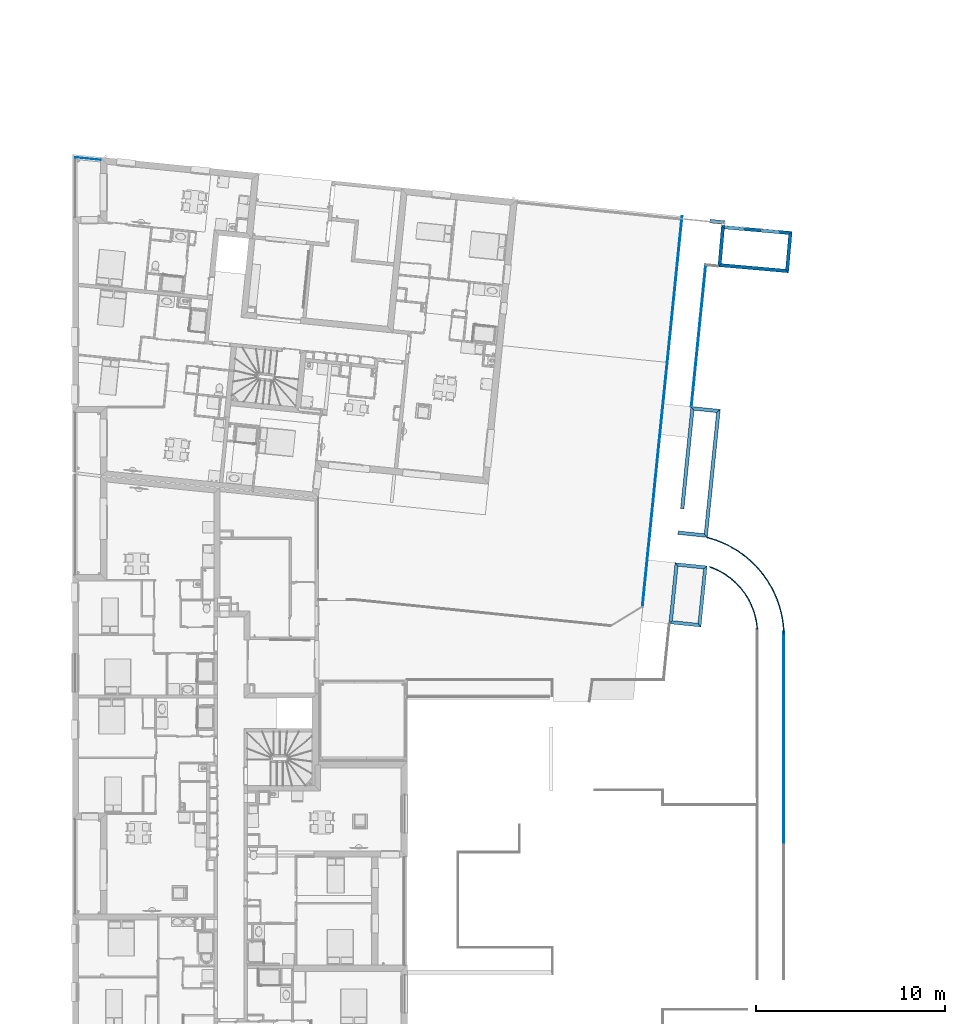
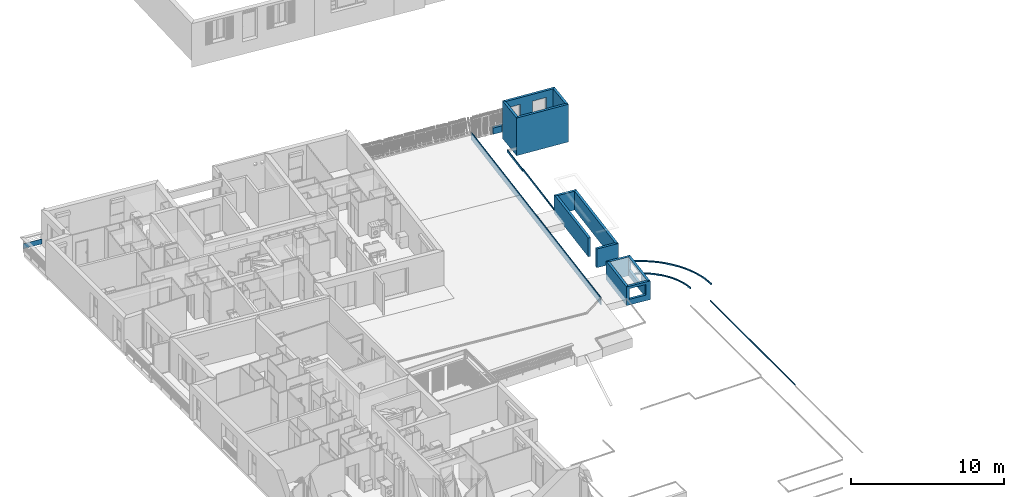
# One storey, part 82 of 171: 20 walls, 4 openings.
"""IFC2X3 building model written with IfcOpenShell, lengths in millimetres."""

from ifc_helpers import new_model, entity, si_unit, converted_unit, derived_unit, money_unit, point, direction, frame, frame_2d, origin_with_axes, origin_2d_with_axis, place, context, subcontext, project, spatial, polyline, circle_curve, parameter, trimmed, segment, composite_curve, rectangle, outline, extrude, material, layer, layer_set, layer_usage, type_object, element, save


model = new_model("IFC2X3")

# Units and contexts
model_context = context("Model", 3, precision=0.01, world=origin_with_axes(), true_north=direction((0.0, 1.0)))
body_context = subcontext(model_context, "Body", "Model", "MODEL_VIEW")
ifc_project = project(units=[si_unit("LENGTHUNIT", "METRE", prefix="MILLI"), si_unit("AREAUNIT", "SQUARE_METRE"), si_unit("VOLUMEUNIT", "CUBIC_METRE"), converted_unit("PLANEANGLEUNIT", "DEGREE", entity("IfcPlaneAngleMeasure", 0.0174532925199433), si_unit("PLANEANGLEUNIT", "RADIAN"), dimensions=[0, 0, 0, 0, 0, 0, 0]), money_unit("USD"), converted_unit("TIMEUNIT", "Year", entity("IfcTimeMeasure", 31557600.0), si_unit("TIMEUNIT", "SECOND"), dimensions=[0, 0, 1, 0, 0, 0, 0]), si_unit("MASSUNIT", "GRAM", prefix="KILO"), si_unit("THERMODYNAMICTEMPERATUREUNIT", "DEGREE_CELSIUS"), si_unit("LUMINOUSINTENSITYUNIT", "LUMEN"), si_unit("ENERGYUNIT", "JOULE", prefix="MEGA"), derived_unit("THERMALCONDUCTANCEUNIT", [(si_unit("POWERUNIT", "WATT"), 1), (si_unit("LENGTHUNIT", "METRE"), -1), (si_unit("THERMODYNAMICTEMPERATUREUNIT", "KELVIN"), -1)]), derived_unit("SPECIFICHEATCAPACITYUNIT", [(si_unit("ENERGYUNIT", "JOULE"), 1), (si_unit("MASSUNIT", "GRAM", prefix="KILO"), -1), (si_unit("THERMODYNAMICTEMPERATUREUNIT", "KELVIN"), -1)]), derived_unit("MASSDENSITYUNIT", [(si_unit("MASSUNIT", "GRAM", prefix="KILO"), 1), (si_unit("VOLUMEUNIT", "CUBIC_METRE"), -1)])], contexts=[model_context])

# Site, building, storey
site_placement = place(None, origin_with_axes())
site = spatial("IfcSite", under=ifc_project, at=site_placement, Name="Site", CompositionType="ELEMENT")
building_placement = place(site_placement, origin_with_axes())
building = spatial("IfcBuilding", under=site, at=building_placement, Name="Bâtiment", CompositionType="ELEMENT")
storey_placement = place(building_placement, frame((0.0, 0.0, 3000.0), z_axis=(0.0, 0.0, 1.0), x_axis=(1.0, 0.0, 0.0)))
storey = spatial("IfcBuildingStorey", under=building, at=storey_placement, Name="rdc", CompositionType="ELEMENT", Elevation=3000.0)

# Walls
ifc_material_1 = material(Name="Hachure solide 268963992")
ifc_layer_1 = layer(ifc_material_1, 50.0, ventilated="UNKNOWN")
ifc_layer_set_1 = layer_set([ifc_layer_1], Name="Cloison 50")
ifc_layer_usage_1 = layer_usage(ifc_layer_set_1, "AXIS2", "NEGATIVE", 50.0)
wall_type_1 = type_object("IfcWallType", Name="Cloison 50 50", PredefinedType="NOTDEFINED")
wall_1_placement = place(storey_placement, frame((2246822.735683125, -627769.7764037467, -500.0), z_axis=(0.0, 0.0, 1.0), x_axis=(0.1011032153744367, 0.9948759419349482, 0.0)))
element("IfcWallStandardCase", 1, at=wall_1_placement, inside=storey, type_object=wall_type_1, material=ifc_layer_usage_1, Name="Mur-152", context=body_context, shape_type="SweptSolid", body=[
    extrude(outline(polyline([(0.0, 0.0), (20751.98327248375, 0.0), (20751.98327248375, 50.00000000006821), (24.68437449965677, 50.00000000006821), (0.0, 0.0)])), origin_with_axes(), (0.0, 0.0, 1.0), 600.0000000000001),
])
ifc_layer_usage_2 = layer_usage(ifc_layer_set_1, "AXIS2", "NEGATIVE", 50.0)
wall_2_placement = place(storey_placement, frame((2250127.298593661, -609664.368330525, -399.9999999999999), z_axis=(0.0, 0.0, 1.0), x_axis=(-0.101103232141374, -0.9948759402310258, 0.0)))
element("IfcWallStandardCase", 2, at=wall_2_placement, inside=storey, type_object=wall_type_1, material=ifc_layer_usage_2, Name="Mur-154", context=body_context, shape_type="SweptSolid", body=[
    extrude(outline(polyline([(0.0, 0.0), (2442.826510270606, -1.13686837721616e-10), (2442.823538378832, 49.99999999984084), (49.99999927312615, 49.99999999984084), (0.0, 0.0)])), origin_with_axes(), (0.0, 0.0, 1.0), 205.7833593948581),
])
ifc_layer_usage_3 = layer_usage(ifc_layer_set_1, "AXIS2", "POSITIVE", -50.0)
wall_3_placement = place(storey_placement, frame((2254256.657583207, -629233.0459382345, -599.9999999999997), z_axis=(0.0, 0.0, 1.0), x_axis=(-0.01920282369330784, 0.9998156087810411, 0.0)))
element("IfcWallStandardCase", 3, at=wall_3_placement, inside=storey, type_object=wall_type_1, material=ifc_layer_usage_3, Name="Mur-158", context=body_context, shape_type="SweptSolid", body=[
    extrude(outline(composite_curve([segment(trimmed(circle_curve(frame_2d((-1.012523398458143e-10, 5365.386332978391), x_axis=(0.0, -1.0)), 5415.386332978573), [point((0.0, -50.0000000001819)), parameter(0.0)], [point((5222.251589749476, 3932.034502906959)), parameter(74.65197986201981)], True, "CARTESIAN"), True, "CONTINUOUS"), segment(polyline([(5222.251589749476, 3932.034502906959), (5174.03479348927, 3945.268571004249)]), True, "CONTINUOUS"), segment(trimmed(circle_curve(frame_2d((0.0, 5365.386332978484), x_axis=(0.0, -1.0)), 5365.386332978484), [point((5174.03479348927, 3945.268571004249)), parameter(74.65197986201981)], [point((0.0, 0.0)), parameter(0.0)], False, "CARTESIAN"), True, "CONTINUOUS"), segment(polyline([(0.0, 0.0), (0.0, -50.0000000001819)]), True, "CONTINUOUS")], self_intersect=False)), origin_with_axes(), (0.0, 0.0, 1.0), 100.0),
])
ifc_layer_usage_4 = layer_usage(ifc_layer_set_1, "AXIS2", "NEGATIVE", 50.0)
wall_4_placement = place(storey_placement, frame((2249880.320937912, -612094.6776517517, -259.9295613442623), z_axis=(0.0, 0.0, 1.0), x_axis=(-0.1009849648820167, -0.9948879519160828, 0.0)))
element("IfcWallStandardCase", 4, at=wall_4_placement, inside=storey, type_object=wall_type_1, material=ifc_layer_usage_4, Name="Mur-157", context=body_context, shape_type="SweptSolid", body=[
    extrude(outline(polyline([(0.0, 0.0), (5112.437162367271, -1.13686837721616e-10), (5112.437162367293, 49.99999999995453), (0.002971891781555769, 49.99999999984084), (0.0, 0.0)])), origin_with_axes(), (0.0, 0.0, 1.0), 100.0),
])
ifc_layer_usage_5 = layer_usage(ifc_layer_set_1, "AXIS2", "NEGATIVE", 50.0)
wall_5_placement = place(storey_placement, frame((2254256.657583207, -629094.8486169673, -2000.0), z_axis=(0.0, 0.0, 1.0), x_axis=(0.0, -1.0, 0.0)))
element("IfcWallStandardCase", 5, at=wall_5_placement, inside=storey, type_object=wall_type_1, material=ifc_layer_usage_5, Name="Mur-159", context=body_context, shape_type="SweptSolid", body=[
    extrude(outline(polyline([(0.0, 0.0), (11169.95491143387, 0.0), (11169.95670882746, 49.99999999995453), (0.0, 49.99999999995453), (0.0, 0.0)])), origin_with_axes(), (0.0, 0.0, 1.0), 100.0),
])
ifc_layer_usage_6 = layer_usage(ifc_layer_set_1, "AXIS2", "NEGATIVE", 0.0)
wall_6_placement = place(storey_placement, frame((2252848.153383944, -628955.3649179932, -599.9999999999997), z_axis=(0.0, 0.0, 1.0), x_axis=(-0.06788713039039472, 0.9976930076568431, 0.0)))
element("IfcWallStandardCase", 6, at=wall_6_placement, inside=storey, type_object=wall_type_1, material=ifc_layer_usage_6, Name="Mur-163", context=body_context, shape_type="SweptSolid", body=[
    extrude(outline(composite_curve([segment(trimmed(circle_curve(frame_2d((0.0, 3722.563453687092), x_axis=(0.0, -1.0)), 3772.56345368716), [point((0.0, -50.00000000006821)), parameter(0.0)], [point((3471.413403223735, 2245.565147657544)), parameter(66.95147849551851)], True, "CARTESIAN"), True, "CONTINUOUS"), segment(polyline([(3471.413403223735, 2245.565147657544), (3425.404721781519, 2265.140674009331)]), True, "CONTINUOUS"), segment(trimmed(circle_curve(frame_2d((0.0, 3722.563453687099), x_axis=(0.0, -1.0)), 3722.563453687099), [point((3425.404721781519, 2265.140674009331)), parameter(66.95147849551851)], [point((0.0, 0.0)), parameter(0.0)], False, "CARTESIAN"), True, "CONTINUOUS"), segment(polyline([(0.0, 0.0), (0.0, -50.00000000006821)]), True, "CONTINUOUS")], self_intersect=False)), origin_with_axes(), (0.0, 0.0, 1.0), 100.0),
])

# Wall, openings
ifc_material_2 = material(Name="Parpaing 314940890")
ifc_layer_2 = layer(ifc_material_2, 180.0, ventilated="UNKNOWN")
ifc_layer_set_2 = layer_set([ifc_layer_2], Name="Beton  18 0018356637")
ifc_layer_usage_7 = layer_usage(ifc_layer_set_2, "AXIS2", "POSITIVE", 0.0)
wall_type_2 = type_object("IfcWallType", Name="Beton  18 0018356637 180", PredefinedType="NOTDEFINED")
wall_7_placement = place(storey_placement, frame((2254723.103832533, -607922.215474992, -600.0000000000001), z_axis=(0.0, 0.0, 1.0), x_axis=(-0.9961532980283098, 0.08762766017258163, 0.0)))
wall_7 = element("IfcWallStandardCase", 7, at=wall_7_placement, inside=storey, type_object=wall_type_2, material=ifc_layer_usage_7, Name="Mur-142", context=body_context, shape_type="SweptSolid", body=[
    extrude(outline(polyline([(0.0, 0.0), (3762.228864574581, 0.0), (3582.228864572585, 179.9999999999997), (179.9999999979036, 179.9999999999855), (0.0, 0.0)])), origin_with_axes(), (0.0, 0.0, 1.0), 2750.0),
])
opening_1_placement = place(wall_7_placement, frame((3054.178626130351, 0.0, 200.0000000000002), z_axis=(0.0, 0.0, 1.0), x_axis=(1.0, 0.0, 0.0)))
element("IfcOpeningElement", 8, at=opening_1_placement, cuts=wall_7, Name="Por-277", context=body_context, shape_type="SweptSolid", body=[
    extrude(rectangle(XDim=1020.000001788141, YDim=2010.0, at=origin_2d_with_axis()), frame((8.940332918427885e-07, 179.9999999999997, 1005.0), z_axis=(0.0, 1.0, 0.0), x_axis=(1.0, 0.0, 0.0)), (0.0, 0.0, -1.0), 360.0),
])
opening_2_placement = place(wall_7_placement, frame((1175.34071080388, 0.0, 200.0000000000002), z_axis=(0.0, 0.0, 1.0), x_axis=(1.0, 0.0, 0.0)))
element("IfcOpeningElement", 9, at=opening_2_placement, cuts=wall_7, Name="Por-277", context=body_context, shape_type="SweptSolid", body=[
    extrude(rectangle(XDim=1020.000001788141, YDim=2010.0, at=origin_2d_with_axis()), frame((-8.940332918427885e-07, 179.9999999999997, 1005.0), z_axis=(0.0, -1.0, 0.0), x_axis=(-1.0, 0.0, 0.0)), (0.0, 0.0, 1.0), 360.0),
])

# Walls
ifc_layer_usage_8 = layer_usage(ifc_layer_set_2, "AXIS2", "NEGATIVE", 0.0)
wall_8_placement = place(storey_placement, frame((2254723.103832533, -607922.215474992, -864.8724613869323), z_axis=(0.0, 0.0, 1.0), x_axis=(-0.0876276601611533, -0.9961532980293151, 0.0)))
element("IfcWallStandardCase", 10, at=wall_8_placement, inside=storey, type_object=wall_type_2, material=ifc_layer_usage_8, Name="Mur-142", context=body_context, shape_type="SweptSolid", body=[
    extrude(outline(polyline([(179.999999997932, -180.0000000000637), (2017.153720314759, -179.99999999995), (2197.153720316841, -1.13686837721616e-10), (0.0, 0.0), (179.999999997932, -180.0000000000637)])), origin_with_axes(), (0.0, 0.0, 1.0), 3014.872461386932),
])
ifc_layer_usage_9 = layer_usage(ifc_layer_set_2, "AXIS2", "NEGATIVE", 0.0)
wall_9_placement = place(storey_placement, frame((2254530.572393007, -610110.917399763, -864.8724613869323), z_axis=(0.0, 0.0, 1.0), x_axis=(-0.9961532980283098, 0.08762766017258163, 0.0)))
element("IfcWallStandardCase", 11, at=wall_9_placement, inside=storey, type_object=wall_type_2, material=ifc_layer_usage_9, Name="Mur-142", context=body_context, shape_type="SweptSolid", body=[
    extrude(outline(polyline([(180.0000000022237, -179.9999999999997), (3582.228864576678, -180.0000000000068), (3762.228864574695, 0.0), (1.13686837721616e-10, 0.0), (180.0000000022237, -179.9999999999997)])), origin_with_axes(), (0.0, 0.0, 1.0), 3014.872461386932),
])
ifc_layer_usage_10 = layer_usage(ifc_layer_set_2, "AXIS2", "NEGATIVE", 0.0)
wall_10_placement = place(storey_placement, frame((2250782.815701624, -609781.2420873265, -864.8724613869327), z_axis=(0.0, 0.0, 1.0), x_axis=(0.0876276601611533, 0.9961532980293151, 0.0)))
element("IfcWallStandardCase", 12, at=wall_10_placement, inside=storey, type_object=wall_type_2, material=ifc_layer_usage_10, Name="Mur-142", context=body_context, shape_type="SweptSolid", body=[
    extrude(outline(polyline([(179.9999999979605, -180.0000000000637), (2017.153720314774, -179.99999999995), (2197.153720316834, 0.0), (0.0, 0.0), (179.9999999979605, -180.0000000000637)])), origin_with_axes(), (0.0, 0.0, 1.0), 3014.872461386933),
])
ifc_layer_usage_11 = layer_usage(ifc_layer_set_2, "AXIS2", "POSITIVE", 0.0)
wall_11_placement = place(storey_placement, frame((2248995.007074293, -622592.7125734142, -500.0), z_axis=(0.0, 0.0, 1.0), x_axis=(0.1011032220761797, 0.9948759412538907, 0.0)))
element("IfcWallStandardCase", 13, at=wall_11_placement, inside=storey, type_object=wall_type_2, material=ifc_layer_usage_11, Name="Mur-133", context=body_context, shape_type="SweptSolid", body=[
    extrude(outline(polyline([(0.0, 0.0), (5241.313331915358, 0.0), (5421.31333191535, 179.99999999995), (0.0, 180.0000000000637), (0.0, 0.0)])), origin_with_axes(), (0.0, 0.0, 1.0), 1500.0),
])
ifc_layer_usage_12 = layer_usage(ifc_layer_set_2, "AXIS2", "POSITIVE", 0.0)
wall_12_placement = place(storey_placement, frame((2249524.920740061, -617378.2560389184, -500.0), z_axis=(0.0, 0.0, 1.0), x_axis=(0.9948759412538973, -0.1011032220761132, 0.0)))
element("IfcWallStandardCase", 14, at=wall_12_placement, inside=storey, type_object=wall_type_2, material=ifc_layer_usage_12, Name="Mur-136", context=body_context, shape_type="SweptSolid", body=[
    extrude(outline(polyline([(0.0, 0.0), (1200.000000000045, 0.0), (1380.000000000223, 179.9999999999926), (-179.99999999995, 179.9999999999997), (0.0, 0.0)])), origin_with_axes(), (0.0, 0.0, 1.0), 1500.0),
])
ifc_layer_usage_13 = layer_usage(ifc_layer_set_2, "AXIS2", "POSITIVE", 0.0)
wall_13_placement = place(storey_placement, frame((2250718.771869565, -617499.5799054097, -500.0), z_axis=(0.0, 0.0, 1.0), x_axis=(-0.1011032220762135, -0.9948759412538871, 0.0)))
element("IfcWallStandardCase", 15, at=wall_13_placement, inside=storey, type_object=wall_type_2, material=ifc_layer_usage_13, Name="Mur-134", context=body_context, shape_type="SweptSolid", body=[
    extrude(outline(polyline([(0.0, 0.0), (6441.313331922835, 0.0), (6621.313331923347, 180.0000000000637), (-180.0000000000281, 180.0000000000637), (0.0, 0.0)])), origin_with_axes(), (0.0, 0.0, 1.0), 1500.0),
])
ifc_layer_usage_14 = layer_usage(ifc_layer_set_2, "AXIS2", "POSITIVE", 0.0)
wall_14_placement = place(storey_placement, frame((2250067.534337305, -623907.8875694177, -500.0), z_axis=(0.0, 0.0, 1.0), x_axis=(-0.9948759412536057, 0.1011032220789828, 0.0)))
element("IfcWallStandardCase", 16, at=wall_14_placement, inside=storey, type_object=wall_type_2, material=ifc_layer_usage_14, Name="Mur-134", context=body_context, shape_type="SweptSolid", body=[
    extrude(outline(polyline([(-1.13686837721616e-10, 0.0), (1379.999999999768, 0.0), (1379.999999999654, 179.9999999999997), (-180.0000000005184, 179.9999999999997), (-1.13686837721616e-10, 0.0)])), origin_with_axes(), (0.0, 0.0, 1.0), 1500.0),
])
ifc_layer_usage_15 = layer_usage(ifc_layer_set_2, "AXIS2", "POSITIVE", 0.0)
wall_15_placement = place(storey_placement, frame((2250223.534011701, -625613.0144414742, -500.0), z_axis=(0.0, 0.0, 1.0), x_axis=(-0.9948759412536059, 0.1011032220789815, 0.0)))
element("IfcWallStandardCase", 17, at=wall_15_placement, inside=storey, type_object=wall_type_2, material=ifc_layer_usage_15, Name="Mur-134", context=body_context, shape_type="SweptSolid", body=[
    extrude(outline(polyline([(-7.677499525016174e-06, 0.0), (1709.550011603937, 0.0), (1529.550011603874, 179.9999999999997), (179.9999923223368, 179.9999999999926), (-7.677499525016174e-06, 0.0)])), origin_with_axes(), (0.0, 0.0, 1.0), 1500.0),
])
ifc_layer_usage_16 = layer_usage(ifc_layer_set_2, "AXIS2", "POSITIVE", 0.0)
wall_16_placement = place(storey_placement, frame((2248522.743834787, -625440.1734269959, -500.0), z_axis=(0.0, 0.0, 1.0), x_axis=(-0.1011032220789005, -0.9948759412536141, 0.0)))
element("IfcWallStandardCase", 18, at=wall_16_placement, inside=storey, type_object=wall_type_2, material=ifc_layer_usage_16, Name="Mur-134", context=body_context, shape_type="SweptSolid", body=[
    extrude(outline(polyline([(0.0, 0.0), (3249.608703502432, 0.0), (3069.608703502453, 179.99999999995), (180.0000000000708, 179.99999999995), (0.0, 0.0)])), origin_with_axes(), (0.0, 0.0, 1.0), 1500.0),
])

# Wall, opening
ifc_layer_usage_17 = layer_usage(ifc_layer_set_2, "AXIS2", "NEGATIVE", 0.0)
wall_17_placement = place(storey_placement, frame((2250223.53401934, -625613.0144422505, -500.0), z_axis=(0.0, 0.0, 1.0), x_axis=(-0.1011032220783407, -0.994875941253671, 0.0)))
wall_17 = element("IfcWallStandardCase", 19, at=wall_17_placement, inside=storey, type_object=wall_type_2, material=ifc_layer_usage_17, Name="Mur-134", context=body_context, shape_type="SweptSolid", body=[
    extrude(outline(polyline([(179.999999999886, -179.99999999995), (3069.608703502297, -179.99999999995), (3249.608703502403, 0.0), (0.0, 0.0), (179.999999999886, -179.99999999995)])), origin_with_axes(), (0.0, 0.0, 1.0), 1500.0),
])
opening_3_placement = place(wall_17_placement, frame((1174.804351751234, 1.13686837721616e-10, 449.9999999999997), z_axis=(0.0, 0.0, 1.0), x_axis=(1.0, 0.0, 0.0)))
element("IfcOpeningElement", 20, at=opening_3_placement, cuts=wall_17, Name="Fen-208", context=body_context, shape_type="SweptSolid", body=[
    extrude(rectangle(XDim=2000.0, YDim=850.0000000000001, at=origin_2d_with_axis()), frame((0.0, -290.0000000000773, 425.0000000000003), z_axis=(0.0, -1.0, 0.0), x_axis=(1.0, 0.0, 0.0)), (0.0, 0.0, -1.0), 470.0),
    extrude(rectangle(XDim=2000.0, YDim=850.0000000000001, at=origin_2d_with_axis()), frame((0.0, -290.0000000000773, 425.0000000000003), z_axis=(0.0, 1.0, 0.0), x_axis=(1.0, 0.0, 0.0)), (0.0, 0.0, -1.0), 470.0),
])

ifc_layer_usage_18 = layer_usage(ifc_layer_set_2, "AXIS2", "NEGATIVE", 0.0)
wall_18_placement = place(storey_placement, frame((2249894.988108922, -628845.9719598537, -500.0), z_axis=(0.0, 0.0, 1.0), x_axis=(-0.9948759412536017, 0.1011032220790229, 0.0)))
wall_18 = element("IfcWallStandardCase", 21, at=wall_18_placement, inside=storey, type_object=wall_type_2, material=ifc_layer_usage_18, Name="Mur-134", context=body_context, shape_type="SweptSolid", body=[
    extrude(outline(polyline([(179.9999999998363, -179.9999999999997), (1529.550019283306, -179.9999999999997), (1709.550019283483, 0.0), (-1.13686837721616e-10, 0.0), (179.9999999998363, -179.9999999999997)])), origin_with_axes(), (0.0, 0.0, 1.0), 1500.0),
])
opening_4_placement = place(wall_18_placement, frame((909.2724208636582, 0.0, 449.9999999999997), z_axis=(0.0, 0.0, 1.0), x_axis=(1.0, 0.0, 0.0)))
element("IfcOpeningElement", 22, at=opening_4_placement, cuts=wall_18, Name="Fen-209", context=body_context, shape_type="SweptSolid", body=[
    extrude(rectangle(XDim=1200.000000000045, YDim=850.0000000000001, at=origin_2d_with_axis()), frame((0.0, -289.9999999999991, 425.0000000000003), z_axis=(0.0, -1.0, 0.0), x_axis=(1.0, 0.0, 0.0)), (0.0, 0.0, -1.0), 470.0),
    extrude(rectangle(XDim=1200.000000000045, YDim=850.0000000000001, at=origin_2d_with_axis()), frame((0.0, -289.9999999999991, 425.0000000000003), z_axis=(0.0, 1.0, 0.0), x_axis=(1.0, 0.0, 0.0)), (0.0, 0.0, -1.0), 470.0),
])

# Walls
ifc_material_3 = material(Name="MANQUANT")
ifc_layer_3 = layer(ifc_material_3, 20.0, ventilated="UNKNOWN")
ifc_layer_set_3 = layer_set([ifc_layer_3], Name="MANQUANT 20")
ifc_layer_usage_19 = layer_usage(ifc_layer_set_3, "AXIS2", "NEGATIVE", 20.0)
wall_type_3 = type_object("IfcWallType", Name="MANQUANT 20", PredefinedType="NOTDEFINED")
wall_19_placement = place(storey_placement, frame((2216784.334462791, -604008.4753163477, 100.0000000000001), z_axis=(0.0, 0.0, 1.0), x_axis=(0.9949030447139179, -0.1008361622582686, 0.0)))
element("IfcWallStandardCase", 23, at=wall_19_placement, inside=storey, type_object=wall_type_3, material=ifc_layer_usage_19, Name="Mur-152", context=body_context, shape_type="SweptSolid", body=[
    extrude(outline(polyline([(0.0, 0.0), (1351.74686726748, 0.0), (1351.746867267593, 20.00000000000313), (0.0, 20.00000000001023), (0.0, 0.0)])), origin_with_axes(), (0.0, 0.0, 1.0), 400.0),
])
ifc_material_4 = material(Name="Empty Fill 292498448")
ifc_layer_4 = layer(ifc_material_4, 200.0, ventilated="UNKNOWN")
ifc_layer_set_4 = layer_set([ifc_layer_4], Name="acrotère 20")
ifc_layer_usage_20 = layer_usage(ifc_layer_set_4, "AXIS2", "NEGATIVE", 200.0)
wall_type_4 = type_object("IfcWallType", Name="acrotère 20 200", PredefinedType="NOTDEFINED")
wall_20_placement = place(storey_placement, frame((2251182.946476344, -607354.0150959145, -400.0000000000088), z_axis=(0.0, 0.0, 1.0), x_axis=(-0.9948759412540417, 0.1011032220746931, 0.0)))
element("IfcWallStandardCase", 24, at=wall_20_placement, inside=storey, type_object=wall_type_4, material=ifc_layer_usage_20, Name="Mur-153", context=body_context, shape_type="SweptSolid", body=[
    extrude(outline(polyline([(-2.491901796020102e-06, 0.0), (816.6545494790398, 0.0), (816.6545494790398, 200.0000000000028), (200.0000000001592, 199.9999999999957), (-2.491901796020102e-06, 0.0)])), origin_with_axes(), (0.0, 0.0, 1.0), 500.0000000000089),
])

save(model, "model.ifc")
